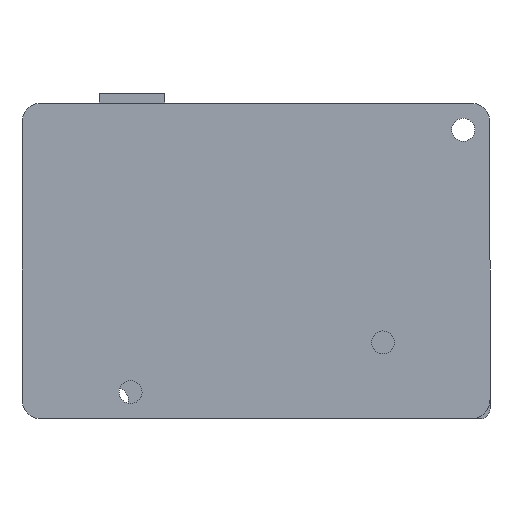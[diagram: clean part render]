
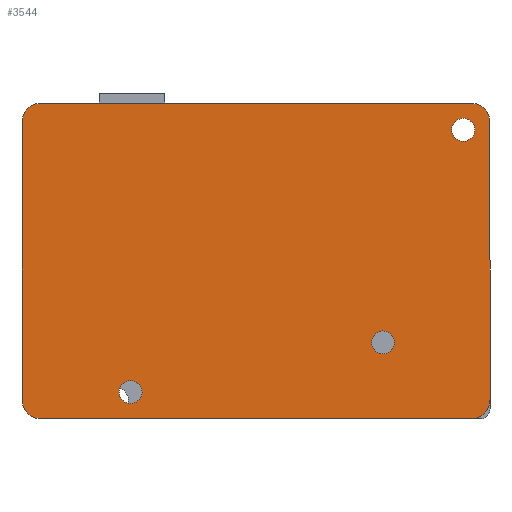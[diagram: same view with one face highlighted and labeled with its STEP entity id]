
A CAD part, front view. The second image highlights one B-rep face of the part: STEP entity #3544.
In plain terms, the highlighted planar face has unit normal (0, -1, 0).
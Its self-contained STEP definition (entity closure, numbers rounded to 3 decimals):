
#21 = VERTEX_POINT ( 'NONE', #2965 ) ;
#56 = CARTESIAN_POINT ( 'NONE',  ( -16.4, -1.6, -17.15 ) ) ;
#74 = CARTESIAN_POINT ( 'NONE',  ( -28.06, -1.6, 18.11 ) ) ;
#100 = DIRECTION ( 'NONE',  ( 0., 0., 1. ) ) ;
#135 = CIRCLE ( 'NONE', #5875, 2.54 ) ;
#143 = EDGE_CURVE ( 'NONE', #5237, #6356, #6096, .T. ) ;
#152 = CARTESIAN_POINT ( 'NONE',  ( 30.6, -1.6, 20.65 ) ) ;
#377 = CARTESIAN_POINT ( 'NONE',  ( -28.06, -1.6, -20.65 ) ) ;
#405 = CIRCLE ( 'NONE', #6264, 1.5 ) ;
#413 = CARTESIAN_POINT ( 'NONE',  ( 30.6, -1.6, 18.11 ) ) ;
#703 = DIRECTION ( 'NONE',  ( -1., 0., 0. ) ) ;
#706 = ORIENTED_EDGE ( 'NONE', *, *, #6769, .T. ) ;
#788 = FACE_OUTER_BOUND ( 'NONE', #6174, .T. ) ;
#796 = CIRCLE ( 'NONE', #3269, 1.5 ) ;
#823 = DIRECTION ( 'NONE',  ( 0., -1., 0. ) ) ;
#881 = ORIENTED_EDGE ( 'NONE', *, *, #6789, .T. ) ;
#947 = DIRECTION ( 'NONE',  ( 0., 0., -1. ) ) ;
#958 = CARTESIAN_POINT ( 'NONE',  ( 28.06, -1.6, -20.65 ) ) ;
#967 = CARTESIAN_POINT ( 'NONE',  ( 16.6, -1.6, -10.65 ) ) ;
#1040 = VERTEX_POINT ( 'NONE', #3780 ) ;
#1057 = DIRECTION ( 'NONE',  ( 0., 1., 0. ) ) ;
#1136 = DIRECTION ( 'NONE',  ( 0., 1., 0. ) ) ;
#1160 = AXIS2_PLACEMENT_3D ( 'NONE', #6352, #7089, #1505 ) ;
#1172 = CIRCLE ( 'NONE', #2213, 2.54 ) ;
#1202 = EDGE_CURVE ( 'NONE', #4006, #6681, #4397, .T. ) ;
#1266 = DIRECTION ( 'NONE',  ( 0., -1., 0. ) ) ;
#1292 = CARTESIAN_POINT ( 'NONE',  ( 27.1, -1.6, 17.15 ) ) ;
#1331 = DIRECTION ( 'NONE',  ( 0., 1., 0. ) ) ;
#1351 = DIRECTION ( 'NONE',  ( 0., 0., -1. ) ) ;
#1394 = FACE_BOUND ( 'NONE', #2302, .T. ) ;
#1505 = DIRECTION ( 'NONE',  ( 0., 0., 1. ) ) ;
#1666 = CARTESIAN_POINT ( 'NONE',  ( 16.6, -1.6, -10.65 ) ) ;
#1801 = ORIENTED_EDGE ( 'NONE', *, *, #143, .T. ) ;
#1918 = CARTESIAN_POINT ( 'NONE',  ( 28.06, -1.6, -18.11 ) ) ;
#2160 = ORIENTED_EDGE ( 'NONE', *, *, #1202, .T. ) ;
#2213 = AXIS2_PLACEMENT_3D ( 'NONE', #74, #5056, #5603 ) ;
#2302 = EDGE_LOOP ( 'NONE', ( #706, #881 ) ) ;
#2372 = ORIENTED_EDGE ( 'NONE', *, *, #7233, .T. ) ;
#2383 = ORIENTED_EDGE ( 'NONE', *, *, #7388, .F. ) ;
#2436 = VERTEX_POINT ( 'NONE', #3379 ) ;
#2486 = DIRECTION ( 'NONE',  ( 0., 0., 1. ) ) ;
#2600 = DIRECTION ( 'NONE',  ( 0., 1., 0. ) ) ;
#2746 = CIRCLE ( 'NONE', #5493, 1.5 ) ;
#2916 = ORIENTED_EDGE ( 'NONE', *, *, #6923, .T. ) ;
#2922 = DIRECTION ( 'NONE',  ( 0., -1., 0. ) ) ;
#2933 = AXIS2_PLACEMENT_3D ( 'NONE', #1918, #1266, #8011 ) ;
#2964 = DIRECTION ( 'NONE',  ( 0., 0., -1. ) ) ;
#2965 = CARTESIAN_POINT ( 'NONE',  ( 16.6, -1.6, -9.15 ) ) ;
#3054 = ORIENTED_EDGE ( 'NONE', *, *, #6737, .T. ) ;
#3072 = CARTESIAN_POINT ( 'NONE',  ( 27.1, -1.6, 15.65 ) ) ;
#3253 = LINE ( 'NONE', #152, #5367 ) ;
#3269 = AXIS2_PLACEMENT_3D ( 'NONE', #3663, #6770, #2486 ) ;
#3272 = PLANE ( 'NONE',  #8075 ) ;
#3374 = CARTESIAN_POINT ( 'NONE',  ( -30.6, -1.6, 20.65 ) ) ;
#3379 = CARTESIAN_POINT ( 'NONE',  ( -30.6, -1.6, -18.11 ) ) ;
#3496 = AXIS2_PLACEMENT_3D ( 'NONE', #6488, #823, #1351 ) ;
#3544 = ADVANCED_FACE ( 'NONE', ( #5110, #1394, #7152, #788 ), #3272, .T. ) ;
#3663 = CARTESIAN_POINT ( 'NONE',  ( 27.1, -1.6, 17.15 ) ) ;
#3729 = DIRECTION ( 'NONE',  ( 0., 0., -1. ) ) ;
#3758 = DIRECTION ( 'NONE',  ( 0., 0., 1. ) ) ;
#3770 = EDGE_CURVE ( 'NONE', #7873, #7434, #6452, .T. ) ;
#3780 = CARTESIAN_POINT ( 'NONE',  ( 27.1, -1.6, 18.65 ) ) ;
#3839 = CARTESIAN_POINT ( 'NONE',  ( 30.6, -1.6, -18.11 ) ) ;
#3895 = LINE ( 'NONE', #6312, #7406 ) ;
#4006 = VERTEX_POINT ( 'NONE', #413 ) ;
#4036 = CARTESIAN_POINT ( 'NONE',  ( 0., -1.6, 0. ) ) ;
#4195 = CARTESIAN_POINT ( 'NONE',  ( -16.4, -1.6, -15.65 ) ) ;
#4397 = CIRCLE ( 'NONE', #3496, 2.54 ) ;
#4462 = DIRECTION ( 'NONE',  ( -1., 0., 0. ) ) ;
#4503 = CARTESIAN_POINT ( 'NONE',  ( 28.06, -1.6, 20.65 ) ) ;
#4526 = ORIENTED_EDGE ( 'NONE', *, *, #5531, .T. ) ;
#4588 = LINE ( 'NONE', #3374, #7568 ) ;
#4621 = EDGE_CURVE ( 'NONE', #6681, #6430, #6908, .T. ) ;
#4639 = CARTESIAN_POINT ( 'NONE',  ( 16.6, -1.6, -12.15 ) ) ;
#4750 = VERTEX_POINT ( 'NONE', #4639 ) ;
#4751 = ORIENTED_EDGE ( 'NONE', *, *, #5450, .F. ) ;
#4819 = ORIENTED_EDGE ( 'NONE', *, *, #3770, .T. ) ;
#4820 = VERTEX_POINT ( 'NONE', #377 ) ;
#4882 = CARTESIAN_POINT ( 'NONE',  ( -28.06, -1.6, 20.65 ) ) ;
#4951 = AXIS2_PLACEMENT_3D ( 'NONE', #967, #1057, #7305 ) ;
#5048 = CIRCLE ( 'NONE', #1160, 1.5 ) ;
#5056 = DIRECTION ( 'NONE',  ( 0., -1., 0. ) ) ;
#5110 = FACE_BOUND ( 'NONE', #6553, .T. ) ;
#5237 = VERTEX_POINT ( 'NONE', #4195 ) ;
#5292 = DIRECTION ( 'NONE',  ( 0., 0., 1. ) ) ;
#5294 = ORIENTED_EDGE ( 'NONE', *, *, #4621, .T. ) ;
#5367 = VECTOR ( 'NONE', #3729, 1000. ) ;
#5450 = EDGE_CURVE ( 'NONE', #7873, #4820, #3895, .T. ) ;
#5493 = AXIS2_PLACEMENT_3D ( 'NONE', #1292, #1331, #3758 ) ;
#5531 = EDGE_CURVE ( 'NONE', #6356, #5237, #5048, .T. ) ;
#5603 = DIRECTION ( 'NONE',  ( 0., 0., -1. ) ) ;
#5746 = CIRCLE ( 'NONE', #4951, 1.5 ) ;
#5813 = VERTEX_POINT ( 'NONE', #3072 ) ;
#5826 = AXIS2_PLACEMENT_3D ( 'NONE', #56, #2600, #100 ) ;
#5875 = AXIS2_PLACEMENT_3D ( 'NONE', #7219, #2922, #2964 ) ;
#6096 = CIRCLE ( 'NONE', #5826, 1.5 ) ;
#6142 = EDGE_CURVE ( 'NONE', #6430, #8015, #1172, .T. ) ;
#6174 = EDGE_LOOP ( 'NONE', ( #7788, #3054, #4751, #4819, #2383, #2160, #5294, #6577 ) ) ;
#6264 = AXIS2_PLACEMENT_3D ( 'NONE', #1666, #1136, #5292 ) ;
#6296 = CARTESIAN_POINT ( 'NONE',  ( 30.6, -1.6, 20.65 ) ) ;
#6312 = CARTESIAN_POINT ( 'NONE',  ( 30.6, -1.6, -20.65 ) ) ;
#6352 = CARTESIAN_POINT ( 'NONE',  ( -16.4, -1.6, -17.15 ) ) ;
#6353 = EDGE_LOOP ( 'NONE', ( #1801, #4526 ) ) ;
#6354 = DIRECTION ( 'NONE',  ( 0., 0., -1. ) ) ;
#6356 = VERTEX_POINT ( 'NONE', #6568 ) ;
#6430 = VERTEX_POINT ( 'NONE', #4882 ) ;
#6452 = CIRCLE ( 'NONE', #2933, 2.54 ) ;
#6488 = CARTESIAN_POINT ( 'NONE',  ( 28.06, -1.6, 18.11 ) ) ;
#6536 = DIRECTION ( 'NONE',  ( 0., -1., 0. ) ) ;
#6553 = EDGE_LOOP ( 'NONE', ( #2916, #2372 ) ) ;
#6568 = CARTESIAN_POINT ( 'NONE',  ( -16.4, -1.6, -18.65 ) ) ;
#6577 = ORIENTED_EDGE ( 'NONE', *, *, #6142, .T. ) ;
#6592 = EDGE_CURVE ( 'NONE', #8015, #2436, #4588, .T. ) ;
#6681 = VERTEX_POINT ( 'NONE', #4503 ) ;
#6712 = CARTESIAN_POINT ( 'NONE',  ( -30.6, -1.6, 18.11 ) ) ;
#6737 = EDGE_CURVE ( 'NONE', #2436, #4820, #135, .T. ) ;
#6769 = EDGE_CURVE ( 'NONE', #21, #4750, #405, .T. ) ;
#6770 = DIRECTION ( 'NONE',  ( 0., 1., 0. ) ) ;
#6789 = EDGE_CURVE ( 'NONE', #4750, #21, #5746, .T. ) ;
#6908 = LINE ( 'NONE', #6296, #7780 ) ;
#6923 = EDGE_CURVE ( 'NONE', #1040, #5813, #2746, .T. ) ;
#7089 = DIRECTION ( 'NONE',  ( 0., 1., 0. ) ) ;
#7152 = FACE_BOUND ( 'NONE', #6353, .T. ) ;
#7219 = CARTESIAN_POINT ( 'NONE',  ( -28.06, -1.6, -18.11 ) ) ;
#7233 = EDGE_CURVE ( 'NONE', #5813, #1040, #796, .T. ) ;
#7305 = DIRECTION ( 'NONE',  ( 0., 0., 1. ) ) ;
#7388 = EDGE_CURVE ( 'NONE', #4006, #7434, #3253, .T. ) ;
#7406 = VECTOR ( 'NONE', #4462, 1000. ) ;
#7434 = VERTEX_POINT ( 'NONE', #3839 ) ;
#7568 = VECTOR ( 'NONE', #6354, 1000. ) ;
#7780 = VECTOR ( 'NONE', #703, 1000. ) ;
#7788 = ORIENTED_EDGE ( 'NONE', *, *, #6592, .T. ) ;
#7873 = VERTEX_POINT ( 'NONE', #958 ) ;
#8011 = DIRECTION ( 'NONE',  ( 0., 0., -1. ) ) ;
#8015 = VERTEX_POINT ( 'NONE', #6712 ) ;
#8075 = AXIS2_PLACEMENT_3D ( 'NONE', #4036, #6536, #947 ) ;
